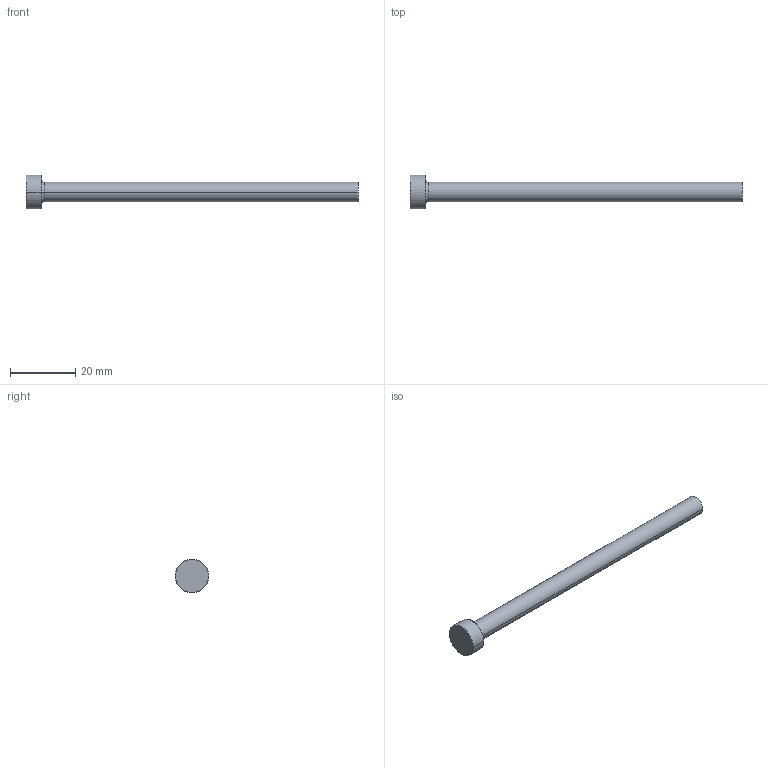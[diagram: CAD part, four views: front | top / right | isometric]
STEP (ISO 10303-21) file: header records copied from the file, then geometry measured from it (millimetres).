
FILE_DESCRIPTION (( 'STEP AP214' ), '1' );
FILE_NAME ('P16-4.STEP', '2020-03-11T18:34:52', ( '' ), ( '' ), 'SwSTEP 2.0', 'SolidWorks 2018', '' );
FILE_SCHEMA (( 'AUTOMOTIVE_DESIGN' ));
Length unit declared in the file: inch
Products named in the file (1): P16-4
Bounding box: 101.6 x 10.32 x 10.32 mm (x, y, z)
Volume: 3088.9 mm3; surface area: 2120.7 mm2
Topology: 1 solids, 1 shells, 13 faces, 24 edges, 14 vertices
Faces by surface type: cone 4, cylinder 4, plane 3, torus 2
Entity records: 366 total; most frequent: DIRECTION 68, CARTESIAN_POINT 52, ORIENTED_EDGE 48, AXIS2_PLACEMENT_3D 30, EDGE_CURVE 24, CIRCLE 16, VERTEX_POINT 14, EDGE_LOOP 14
